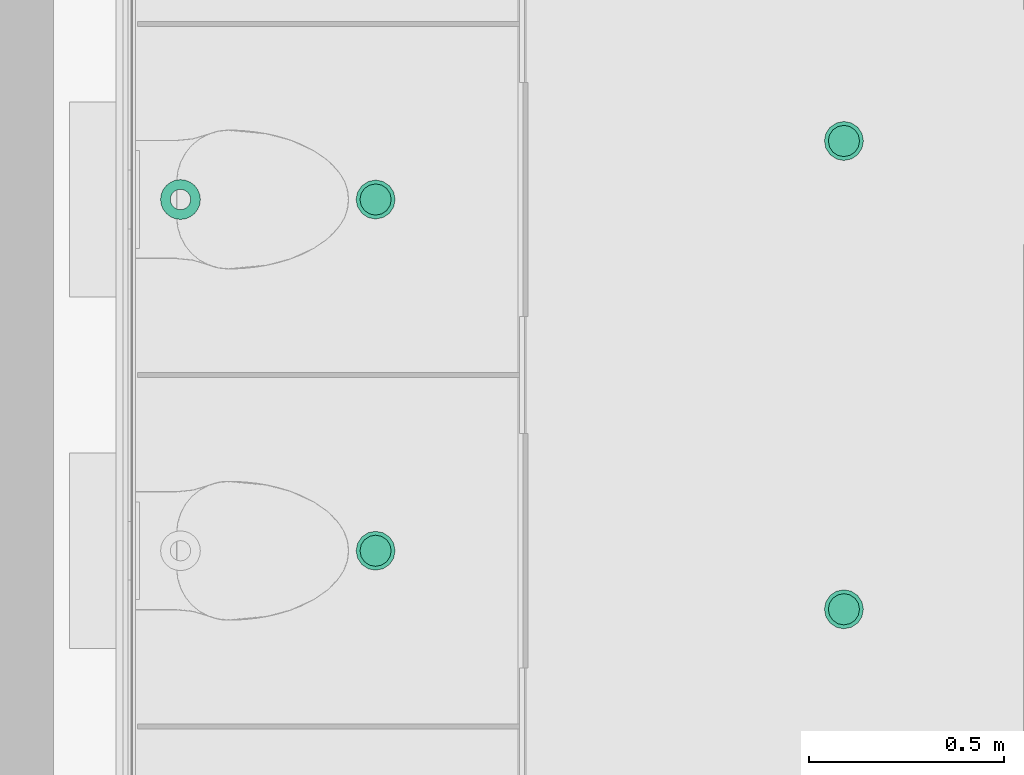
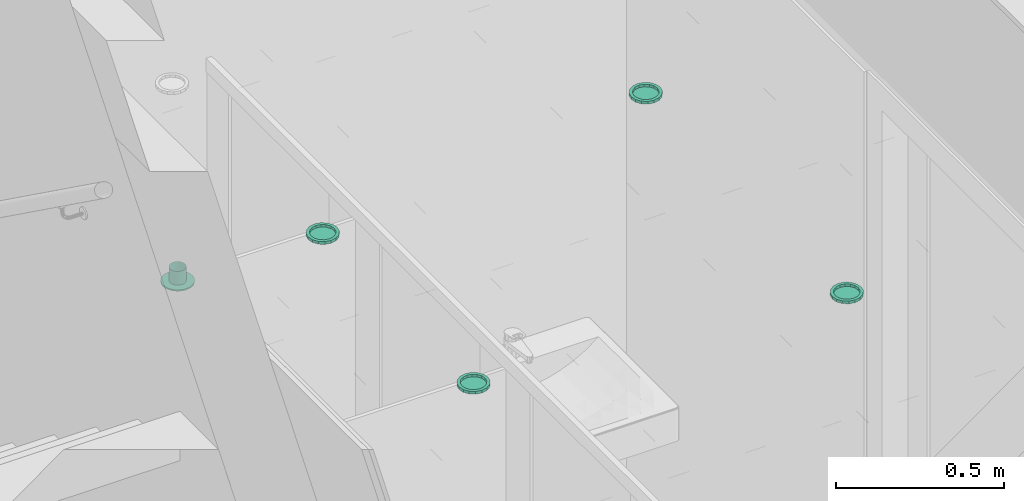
# One storey, part 262 of 347: 5 flow terminals.
"""IFC2X3 building model written with IfcOpenShell, lengths in millimetres."""

from ifc_helpers import new_model, entity, si_unit, converted_unit, derived_unit, money_unit, direction, frame, origin_with_axes, place, context, subcontext, project, spatial, open_shell, faceted_brep, surface_model, source, transform, mapped, type_object, type_shapes, element, save


model = new_model("IFC2X3")

# Units and contexts
model_context = context("Model", 3, precision=0.01, world=origin_with_axes(), true_north=direction((0.0, 1.0)))
plan_context = context("Plan", 3, precision=0.01, world=origin_with_axes(), true_north=direction((0.0, 1.0)))
body_context = subcontext(model_context, "Body", "Model", "MODEL_VIEW")
ifc_project = project(units=[si_unit("LENGTHUNIT", "METRE", prefix="MILLI"), si_unit("AREAUNIT", "SQUARE_METRE"), si_unit("VOLUMEUNIT", "CUBIC_METRE"), converted_unit("PLANEANGLEUNIT", "DEGREE", entity("IfcPlaneAngleMeasure", 0.0174532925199), si_unit("PLANEANGLEUNIT", "RADIAN"), dimensions=[0, 0, 0, 0, 0, 0, 0]), money_unit("EUR"), converted_unit("TIMEUNIT", "Year", entity("IfcTimeMeasure", 31556926.0), si_unit("TIMEUNIT", "SECOND"), dimensions=[0, 0, 1, 0, 0, 0, 0]), si_unit("MASSUNIT", "GRAM", prefix="KILO"), si_unit("THERMODYNAMICTEMPERATUREUNIT", "DEGREE_CELSIUS"), si_unit("LUMINOUSINTENSITYUNIT", "LUMEN"), si_unit("ENERGYUNIT", "JOULE", prefix="MEGA"), derived_unit("THERMALCONDUCTANCEUNIT", [(si_unit("POWERUNIT", "WATT"), 1), (si_unit("LENGTHUNIT", "METRE"), -1), (si_unit("THERMODYNAMICTEMPERATUREUNIT", "KELVIN"), -1)]), derived_unit("SPECIFICHEATCAPACITYUNIT", [(si_unit("ENERGYUNIT", "JOULE"), 1), (si_unit("MASSUNIT", "GRAM", prefix="KILO"), -1), (si_unit("THERMODYNAMICTEMPERATUREUNIT", "KELVIN"), -1)]), derived_unit("MASSDENSITYUNIT", [(si_unit("MASSUNIT", "GRAM", prefix="KILO"), 1), (si_unit("VOLUMEUNIT", "CUBIC_METRE"), -1)])], contexts=[model_context, plan_context])

# Site, building, storey
site_placement = place(None, origin_with_axes())
site = spatial("IfcSite", under=ifc_project, at=site_placement, Name="Site", CompositionType="ELEMENT")
building_placement = place(site_placement, origin_with_axes())
building = spatial("IfcBuilding", under=site, at=building_placement, Name="Naam gebouw", CompositionType="ELEMENT")
storey_placement = place(building_placement, origin_with_axes())
storey = spatial("IfcBuildingStorey", under=building, at=storey_placement, Name="begane grond", CompositionType="ELEMENT", Elevation=0.0)

# Flow terminals
lamp_type = type_object("IfcLampType", Name="Spot plafond 01 25", PredefinedType="NOTDEFINED")
shared_shape_1 = source(origin_with_axes(), body_context, "Body", "SurfaceModel", [
    faceted_brep([(50.0, 0.0, -10.0), (46.1939766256, 19.1341716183, -10.0), (46.1939766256, 19.1341716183, 0.0), (50.0, 0.0, 0.0), (46.1939766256, -19.1341716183, -10.0), (35.3553390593, -35.3553390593, -10.0), (19.1341716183, -46.1939766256, -10.0), (0.0, -50.0, -10.0), (-19.1341716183, -46.1939766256, -10.0), (-35.3553390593, -35.3553390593, -10.0), (-46.1939766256, -19.1341716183, -10.0), (-50.0, 0.0, -10.0), (-46.1939766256, 19.1341716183, -10.0), (-35.3553390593, 35.3553390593, -10.0), (-19.1341716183, 46.1939766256, -10.0), (0.0, 50.0, -10.0), (19.1341716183, 46.1939766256, -10.0), (35.3553390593, 35.3553390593, -10.0), (40.0, 0.0, -10.0), (36.9551813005, 15.3073372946, -10.0), (28.2842712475, 28.2842712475, -10.0), (15.3073372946, 36.9551813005, -10.0), (0.0, 40.0, -10.0), (-15.3073372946, 36.9551813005, -10.0), (-28.2842712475, 28.2842712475, -10.0), (-36.9551813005, 15.3073372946, -10.0), (-40.0, 0.0, -10.0), (-36.9551813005, -15.3073372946, -10.0), (-28.2842712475, -28.2842712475, -10.0), (-15.3073372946, -36.9551813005, -10.0), (0.0, -40.0, -10.0), (15.3073372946, -36.9551813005, -10.0), (28.2842712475, -28.2842712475, -10.0), (36.9551813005, -15.3073372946, -10.0), (35.3553390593, 35.3553390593, 0.0), (19.1341716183, 46.1939766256, 0.0), (0.0, 50.0, 0.0), (-19.1341716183, 46.1939766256, 0.0), (-35.3553390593, 35.3553390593, 0.0), (-46.1939766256, 19.1341716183, 0.0), (-50.0, 0.0, 0.0), (-46.1939766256, -19.1341716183, 0.0), (-35.3553390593, -35.3553390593, 0.0), (-19.1341716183, -46.1939766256, 0.0), (0.0, -50.0, 0.0), (19.1341716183, -46.1939766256, 0.0), (35.3553390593, -35.3553390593, 0.0), (46.1939766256, -19.1341716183, 0.0), (40.0, 0.0, 0.0), (36.9551813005, -15.3073372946, 0.0), (28.2842712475, -28.2842712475, 0.0), (15.3073372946, -36.9551813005, 0.0), (0.0, -40.0, 0.0), (-15.3073372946, -36.9551813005, 0.0), (-28.2842712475, -28.2842712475, 0.0), (-36.9551813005, -15.3073372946, 0.0), (-40.0, 0.0, 0.0), (-36.9551813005, 15.3073372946, 0.0), (-28.2842712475, 28.2842712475, 0.0), (-15.3073372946, 36.9551813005, 0.0), (0.0, 40.0, 0.0), (15.3073372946, 36.9551813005, 0.0), (28.2842712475, 28.2842712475, 0.0), (36.9551813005, 15.3073372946, 0.0)], [[[0, 1, 2, 3]], [[0, 4, 5, 6, 7, 8, 9, 10, 11, 12, 13, 14, 15, 16, 17, 1], [18, 19, 20, 21, 22, 23, 24, 25, 26, 27, 28, 29, 30, 31, 32, 33]], [[1, 17, 34, 2]], [[3, 2, 34, 35, 36, 37, 38, 39, 40, 41, 42, 43, 44, 45, 46, 47], [48, 49, 50, 51, 52, 53, 54, 55, 56, 57, 58, 59, 60, 61, 62, 63]], [[4, 0, 3, 47]], [[5, 4, 47, 46]], [[6, 5, 46, 45]], [[7, 6, 45, 44]], [[8, 7, 44, 43]], [[9, 8, 43, 42]], [[10, 9, 42, 41]], [[11, 10, 41, 40]], [[12, 11, 40, 39]], [[13, 12, 39, 38]], [[14, 13, 38, 37]], [[15, 14, 37, 36]], [[16, 15, 36, 35]], [[17, 16, 35, 34]], [[19, 18, 48, 63]], [[20, 19, 63, 62]], [[21, 20, 62, 61]], [[22, 21, 61, 60]], [[23, 22, 60, 59]], [[24, 23, 59, 58]], [[25, 24, 58, 57]], [[26, 25, 57, 56]], [[27, 26, 56, 55]], [[28, 27, 55, 54]], [[29, 28, 54, 53]], [[30, 29, 53, 52]], [[31, 30, 52, 51]], [[32, 31, 51, 50]], [[33, 32, 50, 49]], [[18, 33, 49, 48]]]),
    surface_model("IfcShellBasedSurfaceModel", [(40.0, 0.0, -8.9), (36.9551813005, -15.3073372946, -8.9), (28.2842712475, -28.2842712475, -8.9), (15.3073372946, -36.9551813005, -8.9), (0.0, -40.0, -8.9), (-15.3073372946, -36.9551813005, -8.9), (-28.2842712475, -28.2842712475, -8.9), (-36.9551813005, -15.3073372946, -8.9), (-40.0, 0.0, -8.9), (-36.9551813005, 15.3073372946, -8.9), (-28.2842712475, 28.2842712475, -8.9), (-15.3073372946, 36.9551813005, -8.9), (0.0, 40.0, -8.9), (15.3073372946, 36.9551813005, -8.9), (28.2842712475, 28.2842712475, -8.9), (36.9551813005, 15.3073372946, -8.9)], [open_shell([[[0, 1, 2, 3, 4, 5, 6, 7, 8, 9, 10, 11, 12, 13, 14, 15]]])]),
])
type_shapes(lamp_type, [shared_shape_1])
for number, where, z_axis, x_axis, name in (
    (1, (43810.0, 32189.999751, 2600.0), (0.0, 0.0, 1.0), (1.0, 0.0, 0.0), "63_Lamp-x"),
    (2, (43810.0, 33389.999751, 2600.0), (0.0, 0.0, 1.0), (1.0, 0.0, 0.0), "63_Lamp-x"),
    (3, (42610.0, 33239.9999523, 2600.0), (0.0, 0.0, 1.0), (1.0, 0.0, 0.0), "63_Lamp-x"),
    (4, (42610.0, 32339.9999523, 2600.0), (0.0, 0.0, 1.0), (1.0, 0.0, 0.0), "63_Lamp-x"),
):
    element("IfcFlowTerminal", number, at=place(storey_placement, frame(where, z_axis=z_axis, x_axis=x_axis)), inside=storey, type_object=lamp_type, Name=name, ObjectType="Lamp", context=body_context, shape_type="MappedRepresentation", body=[
        mapped(shared_shape_1, transform((0.0, 0.0, 0.0))),
    ])
air_terminal_type = type_object("IfcAirTerminalType", Name="Rooster plafond rond 25", PredefinedType="GRILLE")
shared_shape_2 = source(origin_with_axes(), body_context, "Body", "SurfaceModel", [
    faceted_brep([(51.0, 0.0, -5.0), (49.2622171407, 13.1997713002, -5.0), (49.2622171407, 13.1997713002, 0.0), (51.0, 0.0, 0.0), (49.2622171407, -13.1997713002, -5.0), (44.167295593, -25.5, -5.0), (36.0624458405, -36.0624458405, -5.0), (25.5, -44.167295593, -5.0), (13.1997713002, -49.2622171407, -5.0), (0.0, -51.0, -5.0), (-13.1997713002, -49.2622171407, -5.0), (-25.5, -44.167295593, -5.0), (-36.0624458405, -36.0624458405, -5.0), (-44.167295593, -25.5, -5.0), (-49.2622171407, -13.1997713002, -5.0), (-51.0, 0.0, -5.0), (-49.2622171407, 13.1997713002, -5.0), (-44.167295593, 25.5, -5.0), (-36.0624458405, 36.0624458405, -5.0), (-25.5, 44.167295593, -5.0), (-13.1997713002, 49.2622171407, -5.0), (0.0, 51.0, -5.0), (13.1997713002, 49.2622171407, -5.0), (25.5, 44.167295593, -5.0), (36.0624458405, 36.0624458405, -5.0), (44.167295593, 25.5, -5.0), (26.0, 0.0, -5.0), (25.1140714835, 6.72929517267, -5.0), (22.5166604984, 13.0, -5.0), (18.3847763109, 18.3847763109, -5.0), (13.0, 22.5166604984, -5.0), (6.72929517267, 25.1140714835, -5.0), (0.0, 26.0, -5.0), (-6.72929517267, 25.1140714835, -5.0), (-13.0, 22.5166604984, -5.0), (-18.3847763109, 18.3847763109, -5.0), (-22.5166604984, 13.0, -5.0), (-25.1140714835, 6.72929517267, -5.0), (-26.0, 0.0, -5.0), (-25.1140714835, -6.72929517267, -5.0), (-22.5166604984, -13.0, -5.0), (-18.3847763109, -18.3847763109, -5.0), (-13.0, -22.5166604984, -5.0), (-6.72929517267, -25.1140714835, -5.0), (0.0, -26.0, -5.0), (6.72929517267, -25.1140714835, -5.0), (13.0, -22.5166604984, -5.0), (18.3847763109, -18.3847763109, -5.0), (22.5166604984, -13.0, -5.0), (25.1140714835, -6.72929517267, -5.0), (44.167295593, 25.5, 0.0), (36.0624458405, 36.0624458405, 0.0), (25.5, 44.167295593, 0.0), (13.1997713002, 49.2622171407, 0.0), (0.0, 51.0, 0.0), (-13.1997713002, 49.2622171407, 0.0), (-25.5, 44.167295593, 0.0), (-36.0624458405, 36.0624458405, 0.0), (-44.167295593, 25.5, 0.0), (-49.2622171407, 13.1997713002, 0.0), (-51.0, 0.0, 0.0), (-49.2622171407, -13.1997713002, 0.0), (-44.167295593, -25.5, 0.0), (-36.0624458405, -36.0624458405, 0.0), (-25.5, -44.167295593, 0.0), (-13.1997713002, -49.2622171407, 0.0), (0.0, -51.0, 0.0), (13.1997713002, -49.2622171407, 0.0), (25.5, -44.167295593, 0.0), (36.0624458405, -36.0624458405, 0.0), (44.167295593, -25.5, 0.0), (49.2622171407, -13.1997713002, 0.0), (26.0, 0.0, 0.0), (25.1140714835, -6.72929517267, 0.0), (22.5166604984, -13.0, 0.0), (18.3847763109, -18.3847763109, 0.0), (13.0, -22.5166604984, 0.0), (6.72929517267, -25.1140714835, 0.0), (0.0, -26.0, 0.0), (-6.72929517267, -25.1140714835, 0.0), (-13.0, -22.5166604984, 0.0), (-18.3847763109, -18.3847763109, 0.0), (-22.5166604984, -13.0, 0.0), (-25.1140714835, -6.72929517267, 0.0), (-26.0, 0.0, 0.0), (-25.1140714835, 6.72929517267, 0.0), (-22.5166604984, 13.0, 0.0), (-18.3847763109, 18.3847763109, 0.0), (-13.0, 22.5166604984, 0.0), (-6.72929517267, 25.1140714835, 0.0), (0.0, 26.0, 0.0), (6.72929517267, 25.1140714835, 0.0), (13.0, 22.5166604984, 0.0), (18.3847763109, 18.3847763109, 0.0), (22.5166604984, 13.0, 0.0), (25.1140714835, 6.72929517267, 0.0)], [[[0, 1, 2, 3]], [[0, 4, 5, 6, 7, 8, 9, 10, 11, 12, 13, 14, 15, 16, 17, 18, 19, 20, 21, 22, 23, 24, 25, 1], [26, 27, 28, 29, 30, 31, 32, 33, 34, 35, 36, 37, 38, 39, 40, 41, 42, 43, 44, 45, 46, 47, 48, 49]], [[1, 25, 50, 2]], [[3, 2, 50, 51, 52, 53, 54, 55, 56, 57, 58, 59, 60, 61, 62, 63, 64, 65, 66, 67, 68, 69, 70, 71], [72, 73, 74, 75, 76, 77, 78, 79, 80, 81, 82, 83, 84, 85, 86, 87, 88, 89, 90, 91, 92, 93, 94, 95]], [[4, 0, 3, 71]], [[5, 4, 71, 70]], [[6, 5, 70, 69]], [[7, 6, 69, 68]], [[8, 7, 68, 67]], [[9, 8, 67, 66]], [[10, 9, 66, 65]], [[11, 10, 65, 64]], [[12, 11, 64, 63]], [[13, 12, 63, 62]], [[14, 13, 62, 61]], [[15, 14, 61, 60]], [[16, 15, 60, 59]], [[17, 16, 59, 58]], [[18, 17, 58, 57]], [[19, 18, 57, 56]], [[20, 19, 56, 55]], [[21, 20, 55, 54]], [[22, 21, 54, 53]], [[23, 22, 53, 52]], [[24, 23, 52, 51]], [[25, 24, 51, 50]], [[27, 26, 72, 95]], [[28, 27, 95, 94]], [[29, 28, 94, 93]], [[30, 29, 93, 92]], [[31, 30, 92, 91]], [[32, 31, 91, 90]], [[33, 32, 90, 89]], [[34, 33, 89, 88]], [[35, 34, 88, 87]], [[36, 35, 87, 86]], [[37, 36, 86, 85]], [[38, 37, 85, 84]], [[39, 38, 84, 83]], [[40, 39, 83, 82]], [[41, 40, 82, 81]], [[42, 41, 81, 80]], [[43, 42, 80, 79]], [[44, 43, 79, 78]], [[45, 44, 78, 77]], [[46, 45, 77, 76]], [[47, 46, 76, 75]], [[48, 47, 75, 74]], [[49, 48, 74, 73]], [[26, 49, 73, 72]]]),
    surface_model("IfcShellBasedSurfaceModel", [(0.0, -26.0, 0.0), (6.72929517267, -25.1140714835, 0.0), (6.72929517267, -25.1140714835, 50.0), (0.0, -26.0, 50.0), (13.0, -22.5166604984, 0.0), (13.0, -22.5166604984, 50.0), (-6.72929517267, -25.1140714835, 0.0), (-6.72929517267, -25.1140714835, 50.0), (18.3847763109, -18.3847763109, 0.0), (18.3847763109, -18.3847763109, 50.0), (-13.0, -22.5166604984, 0.0), (-13.0, -22.5166604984, 50.0), (22.5166604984, -13.0, 0.0), (22.5166604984, -13.0, 50.0), (-18.3847763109, -18.3847763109, 0.0), (-18.3847763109, -18.3847763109, 50.0), (25.1140714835, -6.72929517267, 0.0), (25.1140714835, -6.72929517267, 50.0), (-22.5166604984, -13.0, 0.0), (-22.5166604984, -13.0, 50.0), (26.0, 0.0, 0.0), (26.0, 0.0, 50.0), (-25.1140714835, -6.72929517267, 0.0), (-25.1140714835, -6.72929517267, 50.0), (25.1140714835, 6.72929517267, 0.0), (25.1140714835, 6.72929517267, 50.0), (-26.0, 0.0, 0.0), (-26.0, 0.0, 50.0), (22.5166604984, 13.0, 0.0), (22.5166604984, 13.0, 50.0), (-25.1140714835, 6.72929517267, 0.0), (-25.1140714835, 6.72929517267, 50.0), (18.3847763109, 18.3847763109, 0.0), (18.3847763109, 18.3847763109, 50.0), (-22.5166604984, 13.0, 0.0), (-22.5166604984, 13.0, 50.0), (13.0, 22.5166604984, 0.0), (13.0, 22.5166604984, 50.0), (-18.3847763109, 18.3847763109, 0.0), (-18.3847763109, 18.3847763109, 50.0), (6.72929517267, 25.1140714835, 0.0), (6.72929517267, 25.1140714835, 50.0), (-13.0, 22.5166604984, 0.0), (-13.0, 22.5166604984, 50.0), (0.0, 26.0, 0.0), (0.0, 26.0, 50.0), (-6.72929517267, 25.1140714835, 0.0), (-6.72929517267, 25.1140714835, 50.0)], [open_shell([[[0, 1, 2, 3]], [[1, 4, 5, 2]], [[6, 0, 3, 7]], [[4, 8, 9, 5]], [[10, 6, 7, 11]], [[8, 12, 13, 9]], [[14, 10, 11, 15]], [[12, 16, 17, 13]], [[18, 14, 15, 19]], [[16, 20, 21, 17]], [[22, 18, 19, 23]], [[20, 24, 25, 21]], [[26, 22, 23, 27]], [[24, 28, 29, 25]], [[30, 26, 27, 31]], [[28, 32, 33, 29]], [[34, 30, 31, 35]], [[32, 36, 37, 33]], [[38, 34, 35, 39]], [[36, 40, 41, 37]], [[42, 38, 39, 43]], [[40, 44, 45, 41]], [[46, 42, 43, 47]], [[44, 46, 47, 45]]])]),
])
type_shapes(air_terminal_type, [shared_shape_2])
flow_terminal_placement = place(storey_placement, frame((42110.000078, 33239.9999523, 2600.0), z_axis=(0.0, 0.0, 1.0), x_axis=(1.0, 0.0, 0.0)))
element("IfcFlowTerminal", 5, at=flow_terminal_placement, inside=storey, type_object=air_terminal_type, Name="57_78 garderobe", context=body_context, shape_type="MappedRepresentation", body=[
    mapped(shared_shape_2, transform((0.0, 0.0, 0.0))),
])

save(model, "model.ifc")
